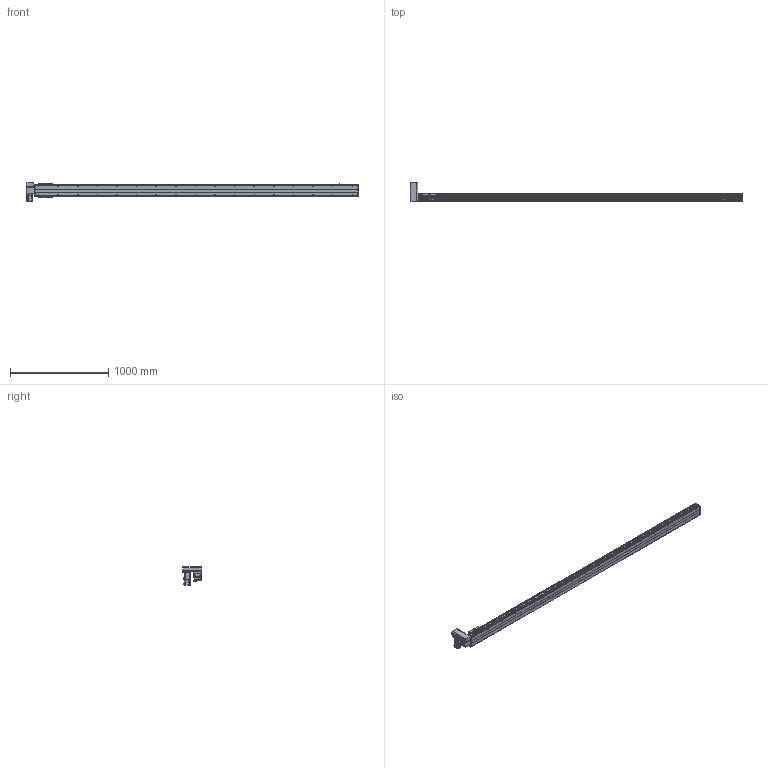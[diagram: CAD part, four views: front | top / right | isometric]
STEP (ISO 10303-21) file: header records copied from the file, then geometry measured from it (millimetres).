
FILE_DESCRIPTION( ( 'STEP AP214' ), '1' );
FILE_NAME( 'x:/temp/worker_27/temp/exporttempdir_6708_260_Bx4RC/format_0/PBS120-P40-S3000-RU-T40-C1-N(0).stp', '2022-06-06T00:52:18', ( 'License CC BY-ND 4.0' ), ( 'CADENAS' ), ' ', 'PARTsolutions', ' ' );
FILE_SCHEMA( ( 'AUTOMOTIVE_DESIGN { 1 0 10303 214 1 1 1 1 }' ) );
Length unit declared in the file: millimetre
Products named in the file (7): PBS120-P40-S3000-RU-T40-C1-N(0); _PBS120-S3000()_body; _PBS120T-RU_motors; _T40-p1; _PBS120_sliser; _PBS120_plant; _PBS120_sensor
Assembly tree (8 placements, depth 2):
  PBS120-P40-S3000-RU-T40-C1-N(0)
    _PBS120-S3000()_body
    _PBS120T-RU_motors
    _T40-p1
    _PBS120_sliser
    _PBS120_plant
    _PBS120_sensor  x3
Bounding box: 3386 x 198 x 189.7 mm (x, y, z)
Volume: 12471304.9 mm3; surface area: 2599981.9 mm2
Topology: 8 solids, 8 shells, 882 faces, 2246 edges, 1441 vertices
Faces by surface type: plane 567, cylinder 247, cone 66, torus 2
Full cylindrical faces by diameter (mm): 2.459 x6, 3.242 x4, 4 x2, 4.134 x4, 4.5 x10, 4.917 x38, 5.5 x11, 6 x2, 6.6 x1, 7 x2, 8.5 x4, 9 x4, 12 x1, 14 x1, 30 x2, 40 x1, 50 x2
Entity records: 28836 total; most frequent: DIRECTION 3956, CARTESIAN_POINT 3839, ORIENTED_EDGE 3610, EDGE_CURVE 1805, AXIS2_PLACEMENT_3D 1364, VERTEX_POINT 1247, LINE 1228, VECTOR 1228
